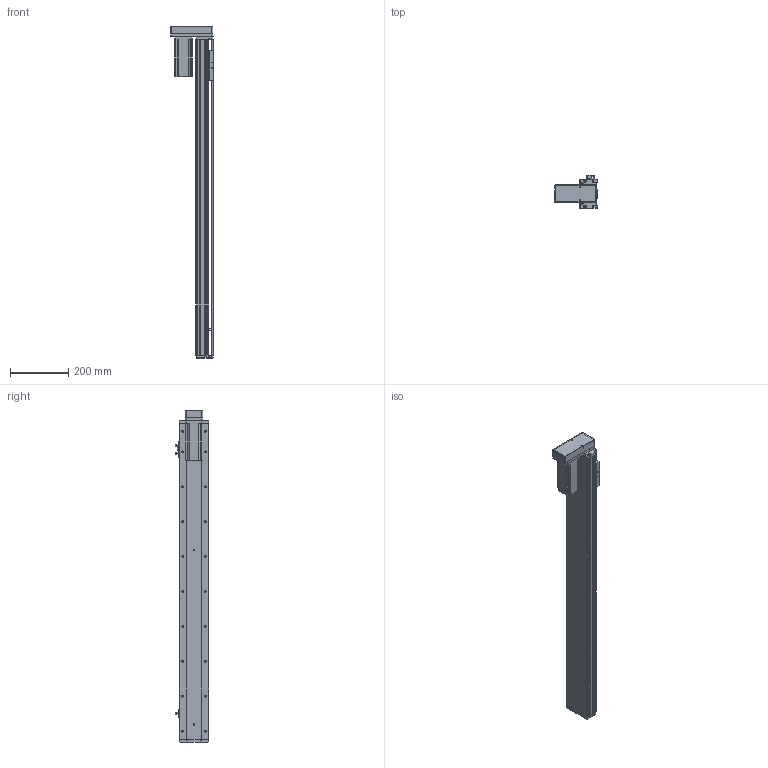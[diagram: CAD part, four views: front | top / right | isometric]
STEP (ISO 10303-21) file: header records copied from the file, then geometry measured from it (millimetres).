
FILE_DESCRIPTION (( 'STEP AP214' ), '1' );
FILE_NAME ('KSD100S-S900-MD-CM.STEP', '2019-08-30T03:44:04', ( '微软用户' ), ( '微软中国' ), 'SwSTEP 2.0', 'SolidWorks 2014', '' );
FILE_SCHEMA (( 'AUTOMOTIVE_DESIGN' ));
Length unit declared in the file: millimetre
Products named in the file (11): 悵誘欶奻狟殏; 100宽马达安装板连板上下折丝杆同步带; 台达ECMA－C20604AS伺服电机; 覜茼え100遵圉猾敕; U倰嫖萇EEㄜSX672; 100宽防尘板丝杆900行程; 100遵鎮湛假蚾啣; 100宽滚珠螺姆安装板半封闭; 100遵傷啣; 100宽底板半封闭丝杆900行程; KSD100S-S900-MD-CM
Assembly tree (12 placements, depth 2):
  KSD100S-S900-MD-CM
    100宽底板半封闭丝杆900行程
    100遵傷啣
    100宽滚珠螺姆安装板半封闭
    100遵鎮湛假蚾啣
    100宽防尘板丝杆900行程
    U倰嫖萇EEㄜSX672  x3
    覜茼え100遵圉猾敕
    台达ECMA－C20604AS伺服电机
    100宽马达安装板连板上下折丝杆同步带
    悵誘欶奻狟殏
Bounding box: 147 x 113.7 x 1140.5 mm (x, y, z)
Volume: 2670451 mm3; surface area: 870188.6 mm2
Topology: 13 solids, 13 shells, 1343 faces, 3794 edges, 2391 vertices
Faces by surface type: cylinder 672, plane 516, cone 155
Entity records: 48691 total; most frequent: CARTESIAN_POINT 9555, DIRECTION 6421, ORIENTED_EDGE 6184, EDGE_CURVE 3092, AXIS2_PLACEMENT_3D 2349, VERTEX_POINT 2015, LINE 1723, VECTOR 1723
